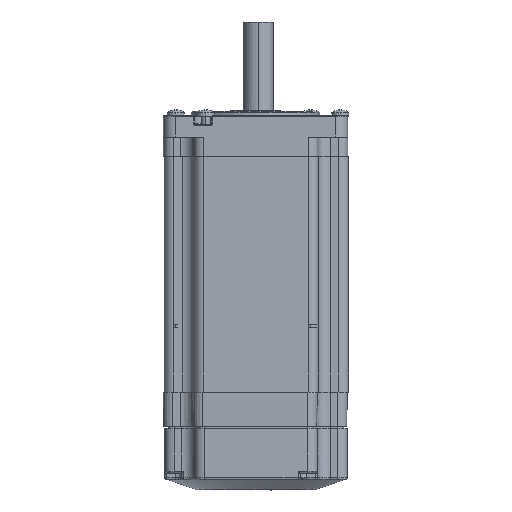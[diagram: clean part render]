
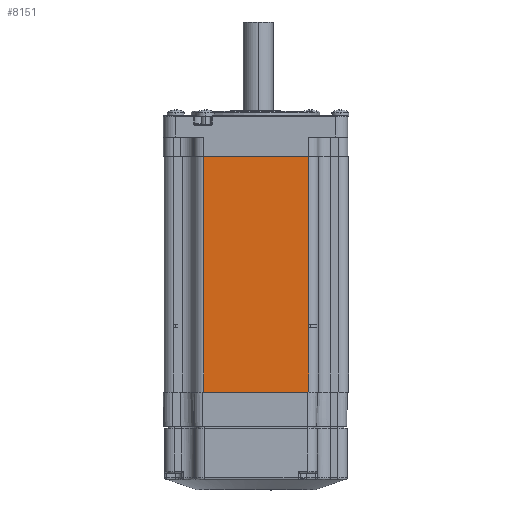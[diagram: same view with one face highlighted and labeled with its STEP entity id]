
A CAD part, front view. The second image highlights one B-rep face of the part: STEP entity #8151.
In plain terms, the highlighted planar face has unit normal (0, -1, 0).
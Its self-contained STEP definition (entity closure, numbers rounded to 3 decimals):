
#8151 = ADVANCED_FACE ( 'NONE', ( #49856 ), #12342, .T. ) ;
#9973 = ORIENTED_EDGE ( 'NONE', *, *, #52891, .T. ) ;
#10140 = ORIENTED_EDGE ( 'NONE', *, *, #52888, .F. ) ;
#10180 = ORIENTED_EDGE ( 'NONE', *, *, #52906, .T. ) ;
#10186 = ORIENTED_EDGE ( 'NONE', *, *, #52889, .F. ) ;
#12339 = DIRECTION ( 'NONE',  ( 0., 0., -1. ) ) ;
#12340 = DIRECTION ( 'NONE',  ( 0., -1., 0. ) ) ;
#12341 = CARTESIAN_POINT ( 'NONE',  ( -24.5, -43., -45. ) ) ;
#12342 = PLANE ( 'NONE',  #26594 ) ;
#17948 = VERTEX_POINT ( 'NONE', #45534 ) ;
#17951 = VERTEX_POINT ( 'NONE', #45535 ) ;
#17982 = VERTEX_POINT ( 'NONE', #45548 ) ;
#17985 = VERTEX_POINT ( 'NONE', #45549 ) ;
#26594 = AXIS2_PLACEMENT_3D ( 'NONE', #12341, #12340, #12339 ) ;
#31669 = EDGE_LOOP ( 'NONE', ( #10140, #10186, #9973, #10180 ) ) ;
#39721 = LINE ( 'NONE', #41341, #44671 ) ;
#39722 = LINE ( 'NONE', #41343, #44672 ) ;
#39723 = LINE ( 'NONE', #41348, #46240 ) ;
#39734 = LINE ( 'NONE', #41382, #46263 ) ;
#41341 = CARTESIAN_POINT ( 'NONE',  ( -24.5, -43., -45. ) ) ;
#41342 = DIRECTION ( 'NONE',  ( 0., 0., 1. ) ) ;
#41343 = CARTESIAN_POINT ( 'NONE',  ( 24.5, -43., -110. ) ) ;
#41344 = DIRECTION ( 'NONE',  ( -1., 0., 0. ) ) ;
#41348 = CARTESIAN_POINT ( 'NONE',  ( 24.5, -43., -45. ) ) ;
#41349 = DIRECTION ( 'NONE',  ( 0., 0., 1. ) ) ;
#41382 = CARTESIAN_POINT ( 'NONE',  ( -24.5, -43., 0. ) ) ;
#41383 = DIRECTION ( 'NONE',  ( -1., 0., 0. ) ) ;
#44671 = VECTOR ( 'NONE', #41342, 1000. ) ;
#44672 = VECTOR ( 'NONE', #41344, 1000. ) ;
#45534 = CARTESIAN_POINT ( 'NONE',  ( -24.5, -43., -110. ) ) ;
#45535 = CARTESIAN_POINT ( 'NONE',  ( 24.5, -43., -110. ) ) ;
#45548 = CARTESIAN_POINT ( 'NONE',  ( 24.5, -43., 0. ) ) ;
#45549 = CARTESIAN_POINT ( 'NONE',  ( -24.5, -43., 0. ) ) ;
#46240 = VECTOR ( 'NONE', #41349, 1000. ) ;
#46263 = VECTOR ( 'NONE', #41383, 1000. ) ;
#49856 = FACE_OUTER_BOUND ( 'NONE', #31669, .T. ) ;
#52888 = EDGE_CURVE ( 'NONE', #17948, #17985, #39721, .T. ) ;
#52889 = EDGE_CURVE ( 'NONE', #17951, #17948, #39722, .T. ) ;
#52891 = EDGE_CURVE ( 'NONE', #17951, #17982, #39723, .T. ) ;
#52906 = EDGE_CURVE ( 'NONE', #17982, #17985, #39734, .T. ) ;
